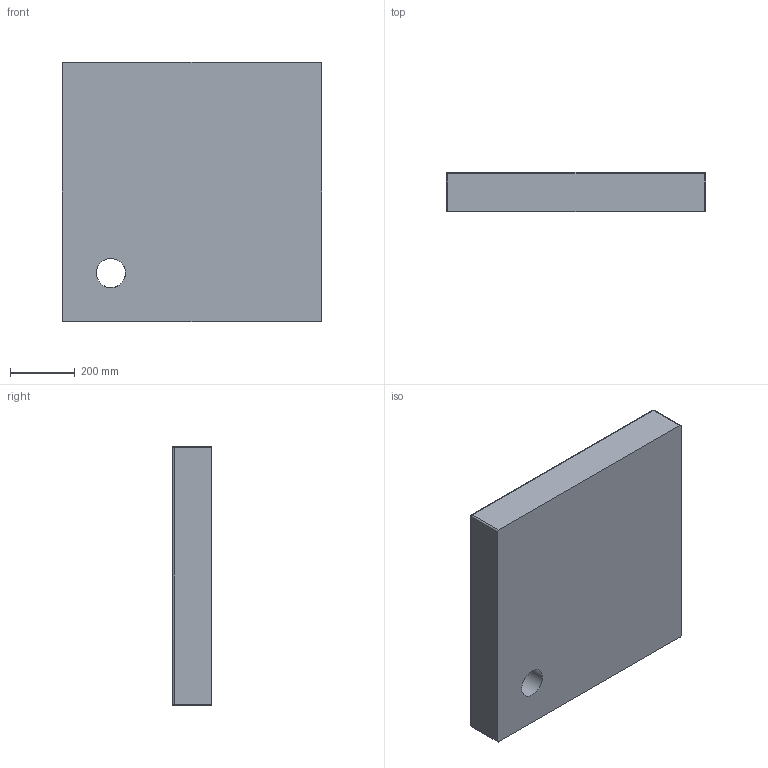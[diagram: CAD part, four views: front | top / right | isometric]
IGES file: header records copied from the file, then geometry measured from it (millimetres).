
Global section: file name: 7ecb8994-49ea-4d29-a765-c3d0536df4fa; native system: unknown; preprocessor: unknown; author: unknown; organization: unknown; date: 20200103.094308; units: millimetre
Bounding box: 800 x 120 x 800 mm (x, y, z)
Volume: 66018502 mm3; surface area: 1714325 mm2
Topology: 1 solids, 1 shells, 47 faces, 98 edges, 54 vertices
Faces by surface type: bspline 47
